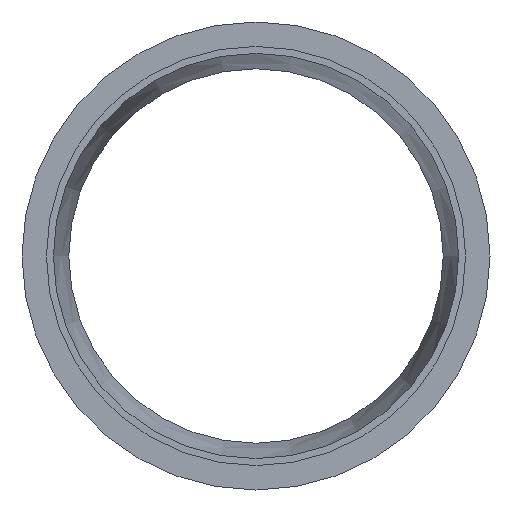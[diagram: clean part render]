
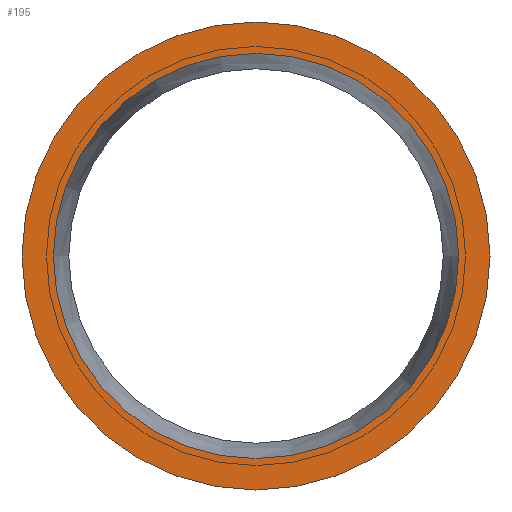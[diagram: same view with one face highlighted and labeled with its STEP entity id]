
A CAD part, left-side view. The second image highlights one B-rep face of the part: STEP entity #195.
In plain terms, the highlighted planar face has unit normal (-1, 0, 0).
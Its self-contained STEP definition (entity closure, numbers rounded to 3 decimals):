
#73=CARTESIAN_POINT('',(-27.081,144.116,0.));
#74=VERTEX_POINT('',#73);
#75=CARTESIAN_POINT('',(-27.081,94.334,0.0));
#76=DIRECTION('',(1.0,0.0,0.0));
#77=DIRECTION('',(0.0,-1.0,0.0));
#78=AXIS2_PLACEMENT_3D('',#75,#76,#77);
#79=CIRCLE('',#78,49.781);
#80=EDGE_CURVE('',#74,#74,#79,.T.);
#169=CARTESIAN_POINT('',(-27.081,36.834,0.0));
#170=VERTEX_POINT('',#169);
#171=CARTESIAN_POINT('',(-27.081,94.334,0.0));
#172=DIRECTION('',(-1.0,0.0,0.0));
#173=DIRECTION('',(0.0,-1.0,0.0));
#174=AXIS2_PLACEMENT_3D('',#171,#172,#173);
#175=CIRCLE('',#174,57.5);
#176=EDGE_CURVE('',#170,#170,#175,.T.);
#184=CARTESIAN_POINT('',(-27.081,65.584,0.0));
#185=DIRECTION('',(-1.0,0.0,0.0));
#186=DIRECTION('',(0.0,0.0,1.0));
#187=AXIS2_PLACEMENT_3D('',#184,#185,#186);
#188=PLANE('',#187);
#189=ORIENTED_EDGE('',*,*,#176,.T.);
#190=EDGE_LOOP('',(#189));
#191=FACE_OUTER_BOUND('',#190,.T.);
#192=ORIENTED_EDGE('',*,*,#80,.T.);
#193=EDGE_LOOP('',(#192));
#194=FACE_BOUND('',#193,.T.);
#195=ADVANCED_FACE('',(#191,#194),#188,.T.);
